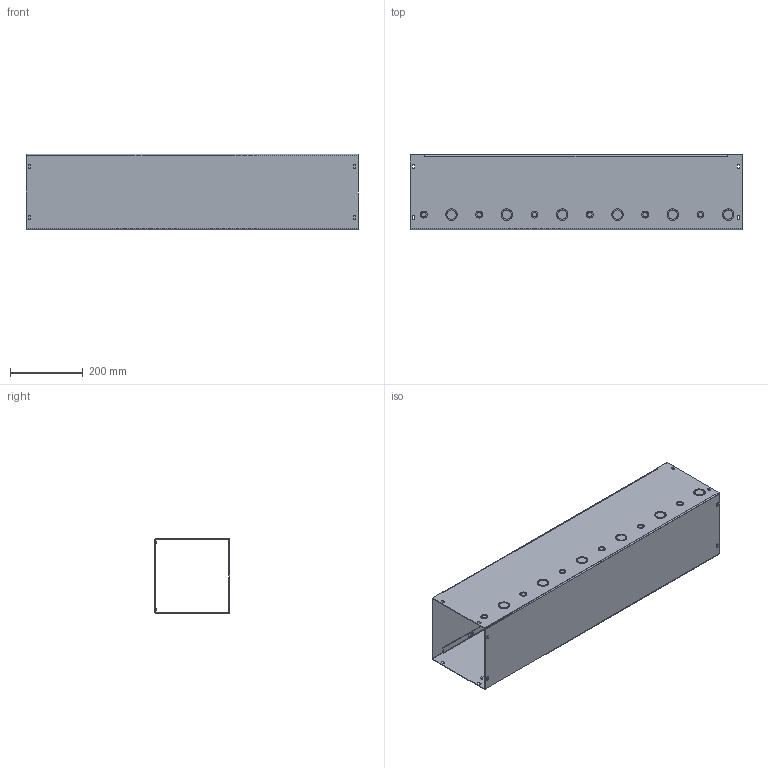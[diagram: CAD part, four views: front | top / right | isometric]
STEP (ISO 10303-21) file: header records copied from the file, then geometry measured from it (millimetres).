
FILE_DESCRIPTION (( 'STEP AP203' ), '1' );
FILE_NAME ('f88t136gvwk.STEP', '2008-06-26T14:26:26', ( '' ), ( '' ), 'SwSTEP 2.0', 'SolidWorks 2007', '' );
FILE_SCHEMA (( 'CONFIG_CONTROL_DESIGN' ));
Length unit declared in the file: inch
Products named in the file (3): BodyWireway_14GA_8x8x36WK; CoverWireway_14GA_8x36; f88t136gvwk
Assembly tree (2 placements, depth 2):
  f88t136gvwk
    CoverWireway_14GA_8x36
    BodyWireway_14GA_8x8x36WK
Bounding box: 914.4 x 207.31 x 208.28 mm (x, y, z)
Volume: 1412708.6 mm3; surface area: 1554817.5 mm2
Topology: 2 solids, 2 shells, 314 faces, 740 edges, 484 vertices
Faces by surface type: cylinder 180, plane 134
Entity records: 9551 total; most frequent: DIRECTION 1742, CARTESIAN_POINT 1543, ORIENTED_EDGE 1480, EDGE_CURVE 740, AXIS2_PLACEMENT_3D 683, VERTEX_POINT 484, EDGE_LOOP 416, VECTOR 376
